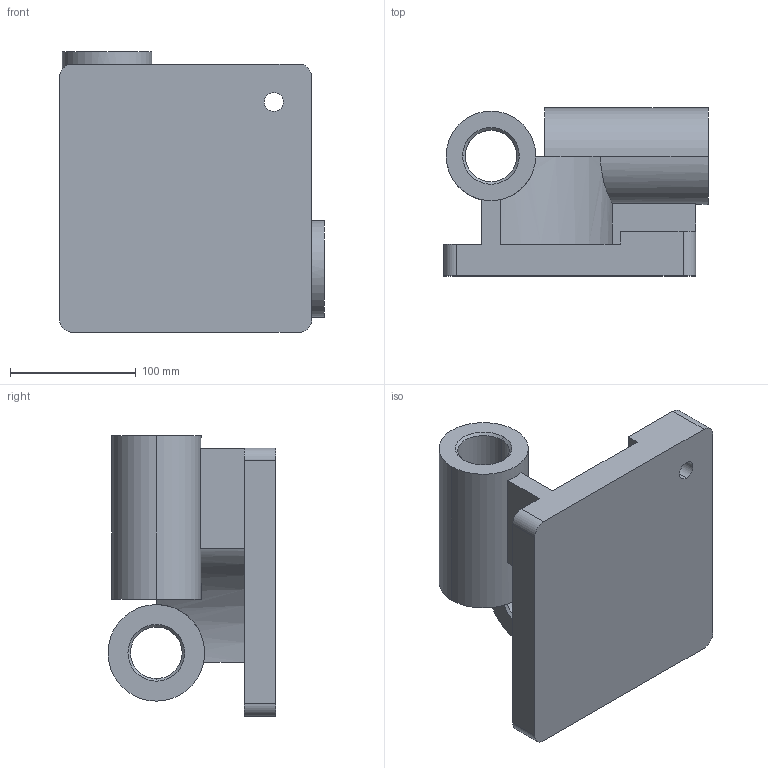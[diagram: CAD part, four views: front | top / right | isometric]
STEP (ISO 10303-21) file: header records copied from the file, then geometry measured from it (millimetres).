
FILE_DESCRIPTION (( 'STEP AP203' ), '1' );
FILE_NAME ('CSWP-Sample - Q1.STEP', '2019-10-03T02:12:18', ( '' ), ( '' ), 'SwSTEP 2.0', 'SolidWorks 2019', '' );
FILE_SCHEMA (( 'CONFIG_CONTROL_DESIGN' ));
Length unit declared in the file: millimetre
Products named in the file (1): CSWP-Sample - Q1
Bounding box: 210 x 133.33 x 223 mm (x, y, z)
Volume: 1845109.4 mm3; surface area: 242206.2 mm2
Topology: 1 solids, 1 shells, 62 faces, 162 edges, 104 vertices
Faces by surface type: cylinder 27, plane 27, cone 8
Entity records: 2113 total; most frequent: CARTESIAN_POINT 447, DIRECTION 348, ORIENTED_EDGE 324, EDGE_CURVE 162, AXIS2_PLACEMENT_3D 127, VERTEX_POINT 104, LINE 94, VECTOR 94
